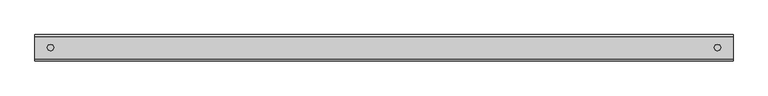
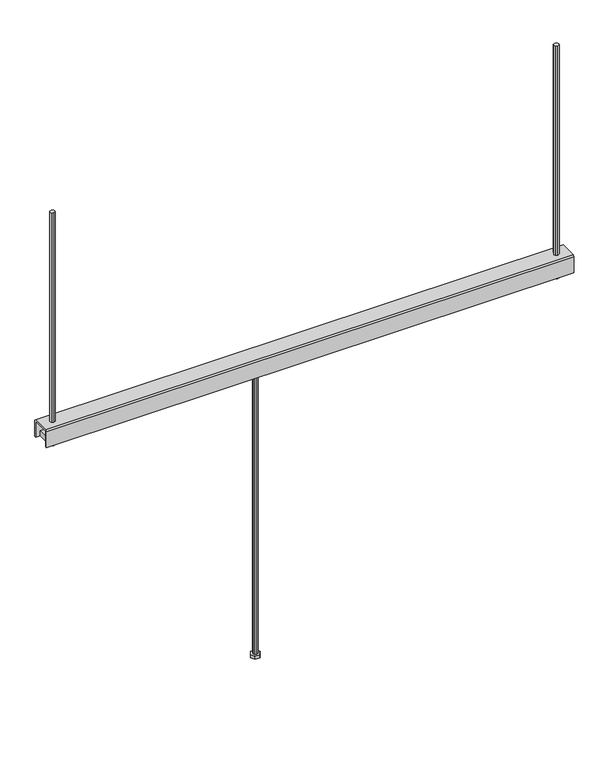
"""IFC4 building model written with IfcOpenShell, lengths in millimetres: proxy geometry, Beared-Hanger : BearedHanger."""

from ifc_helpers import new_model, si_unit, frame, origin, place, context, project, spatial, polyline, outline, extrude, source, transform, mapped, element, save


def mechanical_equipment_e47298fa(model_context):
    return source(origin(), model_context, "Body", "SweptSolid", [
        extrude(outline(polyline([(-109.0242896, 0.0), (-104.0242896, 8.659668), (-94.0242896, 8.659668), (-89.0242896, 0.0), (-94.0242896, -8.659668), (-104.0242896, -8.659668), (-109.0242896, 0.0)])), frame((0.0, 0.0, -1091.1246254), z_axis=(0.0, 0.0, 1.0), x_axis=(1.0, 0.0, 0.0)), (0.0, 0.0, 1.0), 6.6101074),
        extrude(outline(polyline([(-84.1158423, 16.7883301), (-84.1158423, -17.3962402), (-113.9327368, -17.3962402), (-113.9327368, 16.7883301), (-84.1158423, 16.7883301)])), frame((0.0, 0.0, -482.6398231), z_axis=(0.0, 0.0, 1.0), x_axis=(1.0, 0.0, 0.0)), (0.0, 0.0, 1.0), 10.0),
        extrude(outline(polyline([(-99.0242896, 5.0), (-95.4891333, 3.5351562), (-94.0242896, 0.0), (-95.4891333, -3.5351563), (-99.0242896, -5.0), (-102.5594458, -3.5351563), (-104.0248999, 0.0), (-102.5594458, 3.5351562), (-99.0242896, 5.0)])), frame((0.0, 0.0, -1084.5145179), z_axis=(0.0, 0.0, 1.0), x_axis=(1.0, 0.0, 0.0)), (0.0, 0.0, 1.0), 601.8746948),
        extrude(outline(polyline([(493.4249878, -17.3962402), (493.4249878, 16.7883301), (523.2418823, 16.7883301), (523.2418823, -17.3962402), (493.4249878, -17.3962402)])), frame((0.0, 0.0, -482.6398231), z_axis=(0.0, 0.0, 1.0), x_axis=(1.0, 0.0, 0.0)), (0.0, 0.0, 1.0), 10.0),
        extrude(outline(polyline([(508.3334351, 5.0), (511.8685913, 3.5351562), (513.3340454, 0.0), (511.8685913, -3.5351563), (508.3334351, -5.0), (504.7982788, -3.5351563), (503.3334351, 0.0), (504.7982788, 3.5351562), (508.3334351, 5.0)])), frame((0.0, 0.0, -496.2244178), z_axis=(0.0, 0.0, 1.0), x_axis=(1.0, 0.0, 0.0)), (0.0, 0.0, 1.0), 496.2244178),
        extrude(outline(polyline([(-493.4249878, 16.7883301), (-493.4249878, -17.3962402), (-523.2418823, -17.3962402), (-523.2418823, 16.7883301), (-493.4249878, 16.7883301)])), frame((0.0, 0.0, -482.6398231), z_axis=(0.0, 0.0, 1.0), x_axis=(1.0, 0.0, 0.0)), (0.0, 0.0, 1.0), 10.0),
        extrude(outline(polyline([(-508.3334351, 5.0), (-504.7982788, 3.5351562), (-503.3334351, 0.0), (-504.7982788, -3.5351562), (-508.3334351, -5.0), (-511.8685913, -3.5351563), (-513.3340454, 0.0), (-511.8685913, 3.5351563), (-508.3334351, 5.0)])), frame((0.0, 0.0, -496.2244178), z_axis=(0.0, 0.0, 1.0), x_axis=(1.0, 0.0, 0.0)), (0.0, 0.0, 1.0), 496.2244178),
        extrude(outline(polyline([(-17.8259277, -446.2244178), (17.1740723, -446.2244178), (19.6740723, -448.7241127), (19.6740723, -482.6398231), (16.7883301, -482.6398231), (16.7883301, -449.2242958), (-17.3962402, -449.2242958), (-17.3962402, -482.6398231), (-20.3259277, -482.6398231), (-20.3259277, -448.7241127), (-17.8259277, -446.2244178)])), frame((-532.3779297, 0.0, 0.0), z_axis=(1.0, 0.0, 0.0), x_axis=(0.0, 1.0, 0.0)), (0.0, 0.0, 1.0), 1064.7558594),
    ])


if __name__ == "__main__":
    model = new_model("IFC4")
    model_context = context("Model", 3, world=origin())
    ifc_project = project(units=[si_unit("LENGTHUNIT", "METRE", prefix="MILLI")], contexts=[model_context])
    site = spatial("IfcSite", under=ifc_project)
    building = spatial("IfcBuilding", under=site)
    placement = place(None, origin())
    mechanical_equipment_shape = mechanical_equipment_e47298fa(model_context)
    element("IfcBuildingElementProxy", 1, Name="Beared-Hanger : BearedHanger", ObjectType="Beared-Hanger : BearedHanger", at=placement, inside=building, context=model_context, shape_type="MappedRepresentation", body=[
        mapped(mechanical_equipment_shape, transform((0.0, 0.0, 0.0), x_axis=(1.0, 0.0, 0.0), y_axis=(0.0, 1.0, 0.0), z_axis=(0.0, 0.0, 1.0))),
    ])
    save(model, "model.ifc")
